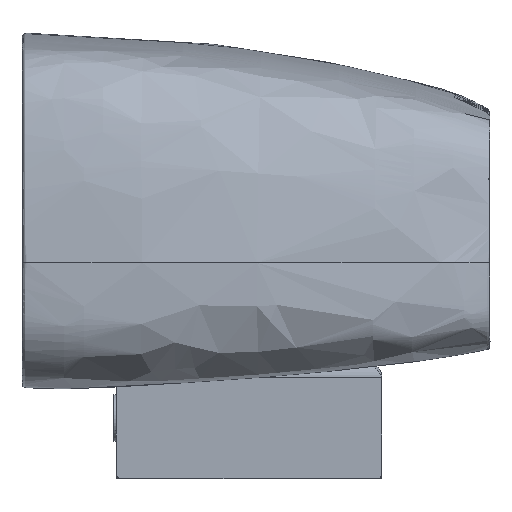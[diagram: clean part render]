
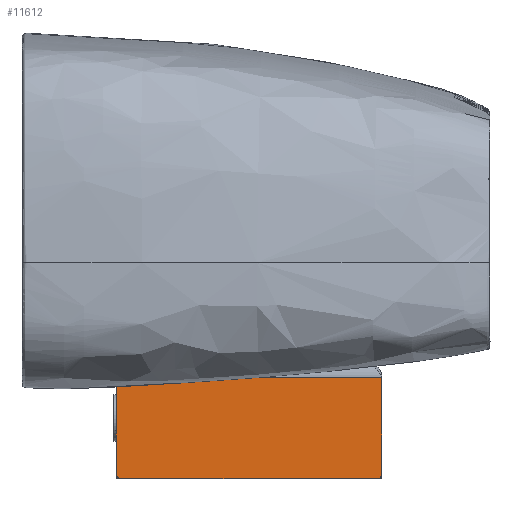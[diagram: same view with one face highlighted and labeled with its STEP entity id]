
A CAD part, left-side view. The second image highlights one B-rep face of the part: STEP entity #11612.
In plain terms, the highlighted planar face has unit normal (-1, 0, 0).
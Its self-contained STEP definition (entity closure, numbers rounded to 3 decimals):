
#905 = ORIENTED_EDGE ( 'NONE', *, *, #10769, .F. ) ;
#1011 = VERTEX_POINT ( 'NONE', #5789 ) ;
#1448 = VERTEX_POINT ( 'NONE', #13980 ) ;
#1528 = CARTESIAN_POINT ( 'NONE',  ( -80., 36.5, -38. ) ) ;
#1586 = VERTEX_POINT ( 'NONE', #11545 ) ;
#2312 = AXIS2_PLACEMENT_3D ( 'NONE', #14106, #4423, #12929 ) ;
#2654 = DIRECTION ( 'NONE',  ( -1., 0., 0. ) ) ;
#2706 = CARTESIAN_POINT ( 'NONE',  ( -80., -10.5, -20.737 ) ) ;
#2752 = DIRECTION ( 'NONE',  ( 0., 0., 1. ) ) ;
#2878 = CARTESIAN_POINT ( 'NONE',  ( -80., -10.5, -20.737 ) ) ;
#3469 = LINE ( 'NONE', #2878, #13151 ) ;
#3941 = VERTEX_POINT ( 'NONE', #6918 ) ;
#4002 = VECTOR ( 'NONE', #5454, 1000. ) ;
#4248 = CARTESIAN_POINT ( 'NONE',  ( -80., 37.5, -39. ) ) ;
#4423 = DIRECTION ( 'NONE',  ( 1., 0., 0. ) ) ;
#4429 = ORIENTED_EDGE ( 'NONE', *, *, #10972, .T. ) ;
#4555 = EDGE_CURVE ( 'NONE', #1586, #1448, #14950, .T. ) ;
#4602 = EDGE_CURVE ( 'NONE', #7261, #1011, #8856, .T. ) ;
#4915 = CARTESIAN_POINT ( 'NONE',  ( -80., 37.5, -38. ) ) ;
#5207 = DIRECTION ( 'NONE',  ( 0., 0., -1. ) ) ;
#5237 = VECTOR ( 'NONE', #11197, 1000. ) ;
#5317 = FACE_OUTER_BOUND ( 'NONE', #14920, .T. ) ;
#5454 = DIRECTION ( 'NONE',  ( 0., -1., 0. ) ) ;
#5789 = CARTESIAN_POINT ( 'NONE',  ( -80., -10.5, -20.737 ) ) ;
#6918 = CARTESIAN_POINT ( 'NONE',  ( -80., 36.5, -39. ) ) ;
#7261 = VERTEX_POINT ( 'NONE', #15192 ) ;
#7605 = LINE ( 'NONE', #11275, #10491 ) ;
#8856 = LINE ( 'NONE', #2706, #5237 ) ;
#9163 = VERTEX_POINT ( 'NONE', #4915 ) ;
#9266 = PLANE ( 'NONE',  #2312 ) ;
#9859 = CIRCLE ( 'NONE', #10453, 1. ) ;
#9917 = CARTESIAN_POINT ( 'NONE',  ( -80., -9.5, -38. ) ) ;
#10024 = DIRECTION ( 'NONE',  ( -1., 0., 0. ) ) ;
#10140 = DIRECTION ( 'NONE',  ( 0., 0., -1. ) ) ;
#10453 = AXIS2_PLACEMENT_3D ( 'NONE', #1528, #10024, #2752 ) ;
#10491 = VECTOR ( 'NONE', #5207, 1000. ) ;
#10769 = EDGE_CURVE ( 'NONE', #1011, #1448, #3469, .T. ) ;
#10972 = EDGE_CURVE ( 'NONE', #7261, #9163, #7605, .T. ) ;
#11142 = DIRECTION ( 'NONE',  ( 0., 0., 1. ) ) ;
#11168 = ORIENTED_EDGE ( 'NONE', *, *, #4555, .T. ) ;
#11197 = DIRECTION ( 'NONE',  ( 0., -1., 0. ) ) ;
#11211 = AXIS2_PLACEMENT_3D ( 'NONE', #9917, #2654, #11142 ) ;
#11214 = LINE ( 'NONE', #4248, #4002 ) ;
#11275 = CARTESIAN_POINT ( 'NONE',  ( -80., 37.5, -20.737 ) ) ;
#11545 = CARTESIAN_POINT ( 'NONE',  ( -80., -9.5, -39. ) ) ;
#11612 = ADVANCED_FACE ( 'NONE', ( #5317 ), #9266, .F. ) ;
#12092 = ORIENTED_EDGE ( 'NONE', *, *, #12424, .T. ) ;
#12424 = EDGE_CURVE ( 'NONE', #3941, #1586, #11214, .T. ) ;
#12929 = DIRECTION ( 'NONE',  ( 0., 0., 1. ) ) ;
#13151 = VECTOR ( 'NONE', #10140, 1000. ) ;
#13980 = CARTESIAN_POINT ( 'NONE',  ( -80., -10.5, -38. ) ) ;
#14106 = CARTESIAN_POINT ( 'NONE',  ( -80., 37.5, -20. ) ) ;
#14568 = ORIENTED_EDGE ( 'NONE', *, *, #4602, .F. ) ;
#14920 = EDGE_LOOP ( 'NONE', ( #4429, #15259, #12092, #11168, #905, #14568 ) ) ;
#14950 = CIRCLE ( 'NONE', #11211, 1. ) ;
#15192 = CARTESIAN_POINT ( 'NONE',  ( -80., 37.5, -20.737 ) ) ;
#15259 = ORIENTED_EDGE ( 'NONE', *, *, #15586, .T. ) ;
#15586 = EDGE_CURVE ( 'NONE', #9163, #3941, #9859, .T. ) ;
